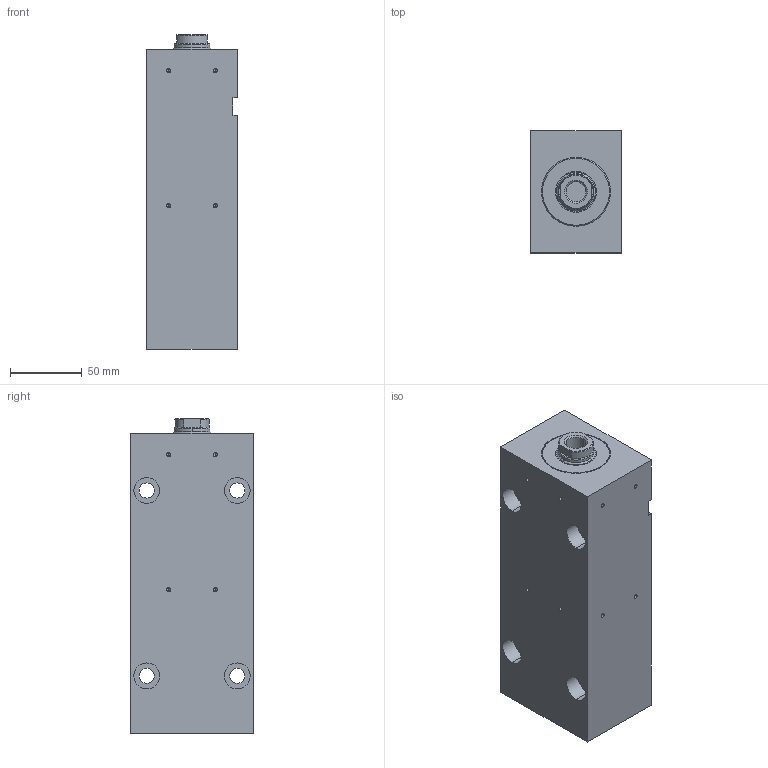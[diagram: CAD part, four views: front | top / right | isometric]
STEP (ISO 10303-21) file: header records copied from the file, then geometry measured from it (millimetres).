
FILE_DESCRIPTION (( 'STEP AP203' ), '1' );
FILE_NAME ('BZ_320.40_25.33.201.120 PP.NS40__DH_0_.STEP', '2022-05-09T16:00:08', ( '' ), ( '' ), 'SwSTEP 2.0', 'SolidWorks 2020', '' );
FILE_SCHEMA (( 'CONFIG_CONTROL_DESIGN' ));
Length unit declared in the file: millimetre
Products named in the file (8): BZ_320.40_25.33.201.120 PP.NS40__DH_0_; _Kolbenstange komplett f. BZ_RZ_FZ.40_25.xx.201.120(0_11 1 16 2 0 0 10 25 0 0 0)0^BZ_320.40_25.33.201.120 PP.NS40__DH_0_(2)_BZ_320.40_25.33.201.120 PP.NS40__DH_0_; _O-Ring 9x2 - Art. 104351^BZ_320.40_25.33.201.120 PP.NS40__DH_0_(2)_BZ_320.40_25.33.201.120 PP.NS40__DH_0_; _Verschraubung hinten komplett mit Dichtung f. BZ500.40_25 LLL^BZ_320.40_25.33.201.120 PP.NS40__DH_0_(2)_BZ_320.40_25.33.201.120 PP.NS40__DH_0_; _Verschraubung komplett mit Dichtung f. BZ_RZ_FZ.40_25.201, Art.-Nr._ 041752(201)^BZ_320.40_25.33.201.120 PP.NS40__DH_0_(2)_BZ_320.40_25.33.201.120 PP.NS40__DH_0_; BZ_320.40_25.33.201.120 PP.NS40__DH_0_(2)^BZ_320.40_25.33.201.120 PP.NS40__DH_0_; _Dichtungssatz f. BZ_RZ_FZ.40_25.xx.201.120 Artikelnr._ 051110(0)^BZ_320.40_25.33.201.120 PP.NS40__DH_0_(2)_BZ_320.40_25.33.201.120 PP.NS40__DH_0_; _Gehaeuse f. BZ320.40_25.33.201.120.N1.m (m = Nut spiegelbildlich40)Nut rechts, Senkungen links00(140frei1330220))7^BZ_320.40_25.33.201.120 PP.NS40__DH_0_(2)_BZ_320.40_25.33.201.120 PP.NS40__DH~
Assembly tree (8 placements, depth 3):
  BZ_320.40_25.33.201.120 PP.NS40__DH_0_
    BZ_320.40_25.33.201.120 PP.NS40__DH_0_(2)^BZ_320.40_25.33.201.120 PP.NS40__DH_0_
      _Gehaeuse f. BZ320.40_25.33.201.120.N1.m (m = Nut spiegelbildlich40)Nut rechts, Senkungen links00(140frei1330220))7^BZ_320.40_25.33.201.120 PP.NS40__DH_0_(2)_BZ_320.40_25.33.201.120 PP.NS40__DH~
      _Verschraubung hinten komplett mit Dichtung f. BZ500.40_25 LLL^BZ_320.40_25.33.201.120 PP.NS40__DH_0_(2)_BZ_320.40_25.33.201.120 PP.NS40__DH_0_
      _Verschraubung komplett mit Dichtung f. BZ_RZ_FZ.40_25.201, Art.-Nr._ 041752(201)^BZ_320.40_25.33.201.120 PP.NS40__DH_0_(2)_BZ_320.40_25.33.201.120 PP.NS40__DH_0_
      _Dichtungssatz f. BZ_RZ_FZ.40_25.xx.201.120 Artikelnr._ 051110(0)^BZ_320.40_25.33.201.120 PP.NS40__DH_0_(2)_BZ_320.40_25.33.201.120 PP.NS40__DH_0_
      _Kolbenstange komplett f. BZ_RZ_FZ.40_25.xx.201.120(0_11 1 16 2 0 0 10 25 0 0 0)0^BZ_320.40_25.33.201.120 PP.NS40__DH_0_(2)_BZ_320.40_25.33.201.120 PP.NS40__DH_0_
      _O-Ring 9x2 - Art. 104351^BZ_320.40_25.33.201.120 PP.NS40__DH_0_(2)_BZ_320.40_25.33.201.120 PP.NS40__DH_0_  x2
Bounding box: 63 x 85 x 219 mm (x, y, z)
Volume: 993205.2 mm3; surface area: 146886.4 mm2
Topology: 7 solids, 7 shells, 169 faces, 388 edges, 232 vertices
Faces by surface type: cylinder 82, plane 41, cone 34, torus 12
Entity records: 5451 total; most frequent: DIRECTION 870, CARTESIAN_POINT 862, ORIENTED_EDGE 696, AXIS2_PLACEMENT_3D 361, EDGE_CURVE 348, VERTEX_POINT 222, EDGE_LOOP 204, CIRCLE 188
